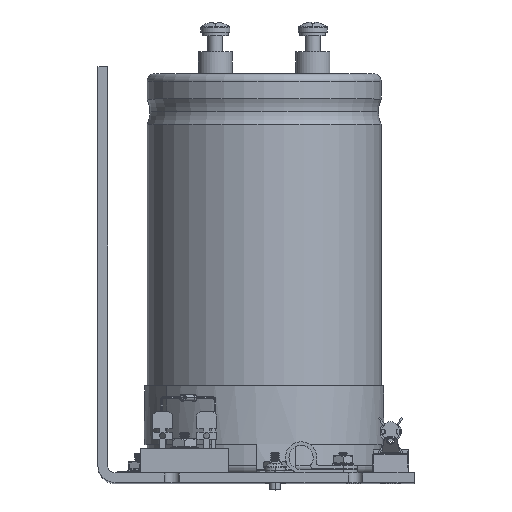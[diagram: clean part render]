
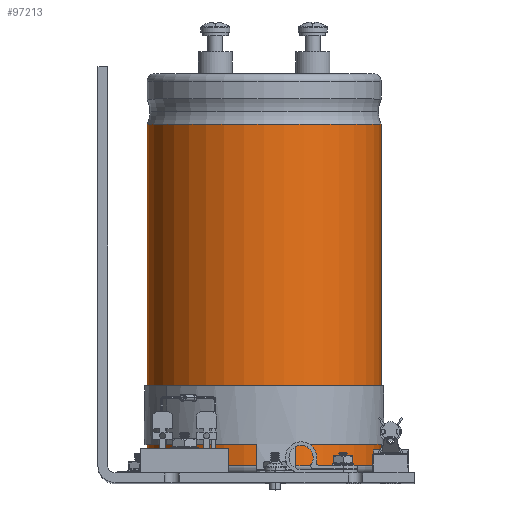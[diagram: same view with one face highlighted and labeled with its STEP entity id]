
A CAD part, top view. The second image highlights one B-rep face of the part: STEP entity #97213.
In plain terms, the highlighted cylindrical face has radius 38.1 mm (diameter 76.2 mm), a partial arc.
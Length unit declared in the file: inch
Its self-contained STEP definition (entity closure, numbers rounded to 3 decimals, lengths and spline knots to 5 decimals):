
#96267=CARTESIAN_POINT('',(2.12891,4.475,-2.2208));
#96268=DIRECTION('',(0.,1.,0.));
#96269=DIRECTION('',(-1.,0.,0.));
#96270=AXIS2_PLACEMENT_3D('',#96267,#96268,#96269);
#96299=DIRECTION('',(0.,1.,0.));
#96300=VECTOR('',#96299,4.375);
#96301=CARTESIAN_POINT('',(0.62891,0.1,-2.2208));
#96302=LINE('',#96301,#96300);
#96306=DIRECTION('',(0.,1.,0.));
#96307=VECTOR('',#96306,4.375);
#96308=CARTESIAN_POINT('',(3.62891,0.1,-2.2208));
#96309=LINE('',#96308,#96307);
#96321=CARTESIAN_POINT('',(2.12891,0.1,-2.2208));
#96322=DIRECTION('',(0.,-1.,0.));
#96323=DIRECTION('',(1.,0.,0.));
#96324=AXIS2_PLACEMENT_3D('',#96321,#96322,#96323);
#96763=CARTESIAN_POINT('',(0.62891,0.1,-2.2208));
#96765=VERTEX_POINT('',#96763);
#96785=CARTESIAN_POINT('',(0.62891,4.475,-2.2208));
#96786=VERTEX_POINT('',#96785);
#96813=CARTESIAN_POINT('',(3.62891,0.1,-2.2208));
#96814=VERTEX_POINT('',#96813);
#96833=CARTESIAN_POINT('',(3.62891,4.475,-2.2208));
#96834=VERTEX_POINT('',#96833);
#97201=CARTESIAN_POINT('',(2.12891,0.,-2.2208));
#97202=DIRECTION('',(0.,-1.,0.));
#97203=DIRECTION('',(-1.,0.,0.));
#97204=AXIS2_PLACEMENT_3D('',#97201,#97202,#97203);
#97205=CYLINDRICAL_SURFACE('',#97204,1.5);
#97206=ORIENTED_EDGE('',*,*,#97189,.F.);
#97208=ORIENTED_EDGE('',*,*,#97207,.T.);
#97209=ORIENTED_EDGE('',*,*,#97185,.T.);
#97210=ORIENTED_EDGE('',*,*,#97143,.T.);
#97211=EDGE_LOOP('',(#97206,#97208,#97209,#97210));
#97212=FACE_OUTER_BOUND('',#97211,.F.);
#96271=CIRCLE('',#96270,1.5);
#96325=CIRCLE('',#96324,1.5);
#97143=EDGE_CURVE('',#96786,#96834,#96271,.T.);
#97185=EDGE_CURVE('',#96765,#96786,#96302,.T.);
#97189=EDGE_CURVE('',#96814,#96834,#96309,.T.);
#97207=EDGE_CURVE('',#96814,#96765,#96325,.T.);
#97213=ADVANCED_FACE('',(#97212),#97205,.T.);
